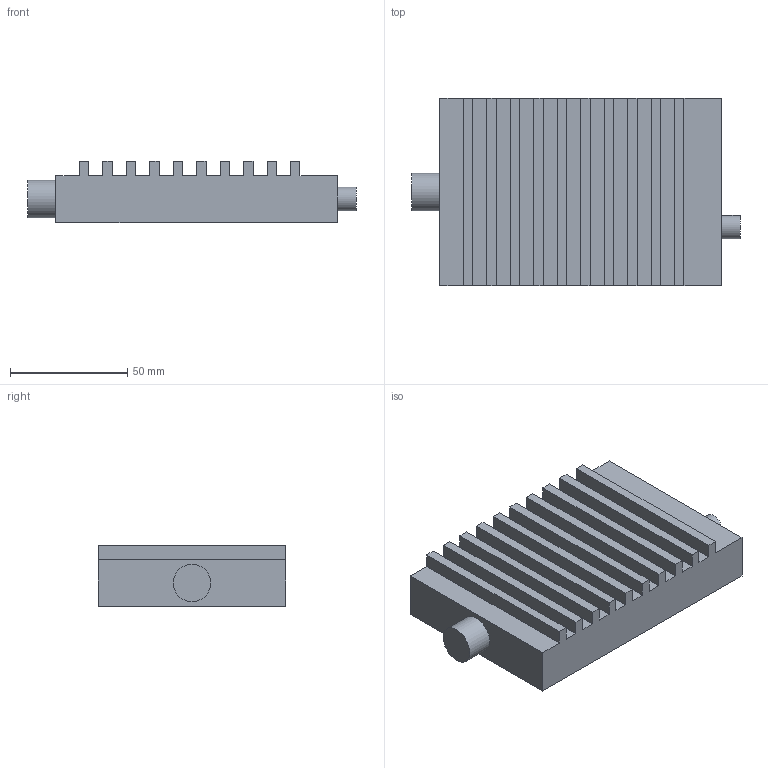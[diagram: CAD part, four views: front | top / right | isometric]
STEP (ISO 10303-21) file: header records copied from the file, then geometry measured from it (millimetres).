
FILE_DESCRIPTION(('Open CASCADE Model'),'2;1');
FILE_NAME('Open CASCADE Shape Model','2026-10-22T14:10:23',('Author'),( 'Open CASCADE'),'Open CASCADE STEP processor 7.8','Open CASCADE 7.8' ,'Unknown');
FILE_SCHEMA(('AUTOMOTIVE_DESIGN { 1 0 10303 214 1 1 1 1 }'));
Length unit declared in the file: millimetre
Products named in the file (1): Open CASCADE STEP translator 7.8 1
Bounding box: 140 x 80 x 26 mm (x, y, z)
Volume: 214241.1 mm3; surface area: 38134.5 mm2
Topology: 1 solids, 1 shells, 50 faces, 138 edges, 92 vertices
Faces by surface type: plane 48, cylinder 2
Full cylindrical faces by diameter (mm): 10 x1, 16 x1
Entity records: 3370 total; most frequent: CARTESIAN_POINT 557, DIRECTION 520, LINE 406, VECTOR 406, ORIENTED_EDGE 276, PCURVE 276, DEFINITIONAL_REPRESENTATION 276, EDGE_CURVE 138
